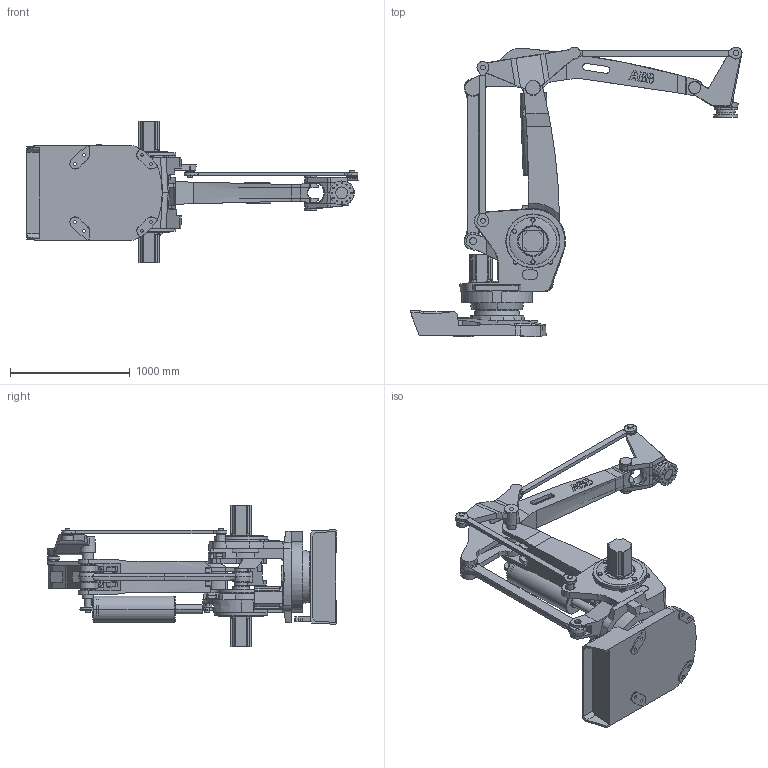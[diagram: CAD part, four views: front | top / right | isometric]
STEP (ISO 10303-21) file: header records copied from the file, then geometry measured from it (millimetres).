
FILE_DESCRIPTION(('STEP AP203'),'1');
FILE_NAME('robot_irb_660-180_3_15.stp','2022-04-30T08:45:43',('TraceParts'),('TraceParts S.A.'),'Spatial InterOp 3D',' ',' ');
FILE_SCHEMA(('CONFIG_CONTROL_DESIGN'));
Length unit declared in the file: millimetre
Products named in the file (1): 1
Bounding box: 2771.67 x 2419.77 x 1184 mm (x, y, z)
Volume: 476890676.2 mm3; surface area: 14658964.8 mm2
Topology: 13 solids, 13 shells, 1618 faces, 4228 edges, 2747 vertices
Faces by surface type: plane 974, cylinder 261, cone 236, bspline 115, torus 30, sphere 2
Entity records: 59670 total; most frequent: CARTESIAN_POINT 20423, ORIENTED_EDGE 8456, DIRECTION 7677, EDGE_CURVE 4228, VERTEX_POINT 2747, LINE 2685, VECTOR 2685, AXIS2_PLACEMENT_3D 2496
